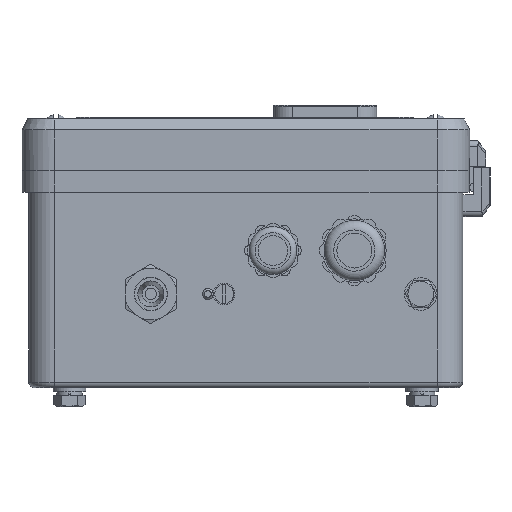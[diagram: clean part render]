
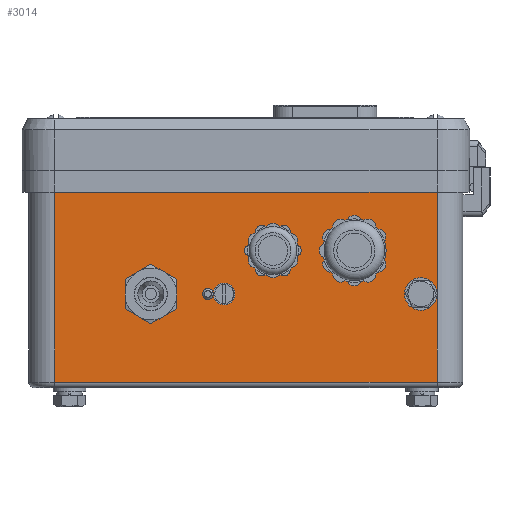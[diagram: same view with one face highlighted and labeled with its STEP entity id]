
A CAD part, left-side view. The second image highlights one B-rep face of the part: STEP entity #3014.
In plain terms, the highlighted planar face has unit normal (-1, 0, 0).
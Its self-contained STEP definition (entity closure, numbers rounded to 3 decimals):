
#3014=ADVANCED_FACE('',(#28628,#28630,#28632,#28634,#28636,#28638,#28640),#28642,
.T.);
#28628=FACE_BOUND('',#28629,.T.);
#28629=EDGE_LOOP('',(#56695,#56696,#56697,#56698));
#28630=FACE_BOUND('',#28631,.T.);
#28631=EDGE_LOOP('',(#56699));
#28632=FACE_BOUND('',#28633,.T.);
#28633=EDGE_LOOP('',(#56700));
#28634=FACE_BOUND('',#28635,.T.);
#28635=EDGE_LOOP('',(#56701));
#28636=FACE_BOUND('',#28637,.T.);
#28637=EDGE_LOOP('',(#56702));
#28638=FACE_BOUND('',#28639,.T.);
#28639=EDGE_LOOP('',(#56703));
#28640=FACE_BOUND('',#28641,.T.);
#28641=EDGE_LOOP('',(#56704));
#28642=PLANE('',#28643);
#28643=AXIS2_PLACEMENT_3D('',#28644,#28645,#28646);
#28644=CARTESIAN_POINT('',(-80.,-70.5,0.));
#28645=DIRECTION('',(-1.,0.,0.));
#28646=DIRECTION('',(0.,0.,-1.));
#56695=ORIENTED_EDGE('',*,*,#78029,.T.);
#56696=ORIENTED_EDGE('',*,*,#78030,.F.);
#56697=ORIENTED_EDGE('',*,*,#78031,.F.);
#56698=ORIENTED_EDGE('',*,*,#78032,.F.);
#56699=ORIENTED_EDGE('',*,*,#78033,.T.);
#56700=ORIENTED_EDGE('',*,*,#77940,.T.);
#56701=ORIENTED_EDGE('',*,*,#77942,.T.);
#56702=ORIENTED_EDGE('',*,*,#77944,.T.);
#56703=ORIENTED_EDGE('',*,*,#77946,.T.);
#56704=ORIENTED_EDGE('',*,*,#77948,.T.);
#77940=EDGE_CURVE('',#92463,#92463,#92464,.F.);
#77942=EDGE_CURVE('',#92467,#92467,#92468,.F.);
#77944=EDGE_CURVE('',#92471,#92471,#92472,.F.);
#77946=EDGE_CURVE('',#92475,#92475,#92476,.F.);
#77948=EDGE_CURVE('',#92479,#92479,#92480,.F.);
#78029=EDGE_CURVE('',#92617,#92618,#92619,.T.);
#78030=EDGE_CURVE('',#92620,#92618,#92621,.T.);
#78031=EDGE_CURVE('',#92622,#92620,#92623,.T.);
#78032=EDGE_CURVE('',#92617,#92622,#92624,.T.);
#78033=EDGE_CURVE('',#92625,#92625,#92626,.T.);
#92463=VERTEX_POINT('',#109501);
#92464=CIRCLE('',#109502,7.5);
#92467=VERTEX_POINT('',#109511);
#92468=CIRCLE('',#109512,6.5);
#92471=VERTEX_POINT('',#109521);
#92472=CIRCLE('',#109522,6.15);
#92475=VERTEX_POINT('',#109531);
#92476=CIRCLE('',#109532,2.);
#92479=VERTEX_POINT('',#109541);
#92480=CIRCLE('',#109542,2.);
#92617=VERTEX_POINT('',#109882);
#92618=VERTEX_POINT('',#109883);
#92619=LINE('',#109884,#109885);
#92620=VERTEX_POINT('',#109887);
#92621=LINE('',#109888,#109889);
#92622=VERTEX_POINT('',#109891);
#92623=LINE('',#109892,#109893);
#92624=LINE('',#109895,#109896);
#92625=VERTEX_POINT('',#109898);
#92626=CIRCLE('',#109899,3.);
#109501=CARTESIAN_POINT('',(-80.,-32.5,50.5));
#109502=AXIS2_PLACEMENT_3D('',#109503,#109504,#109505);
#109503=CARTESIAN_POINT('',(-80.,-40.,50.5));
#109504=DIRECTION('',(-1.,0.,0.));
#109505=DIRECTION('',(0.,1.,0.));
#109511=CARTESIAN_POINT('',(-80.,-10.,57.));
#109512=AXIS2_PLACEMENT_3D('',#109513,#109514,#109515);
#109513=CARTESIAN_POINT('',(-80.,-10.,50.5));
#109514=DIRECTION('',(-1.,0.,0.));
#109515=DIRECTION('',(0.,0.,1.));
#109521=CARTESIAN_POINT('',(-80.,35.,28.35));
#109522=AXIS2_PLACEMENT_3D('',#109523,#109524,#109525);
#109523=CARTESIAN_POINT('',(-80.,35.,34.5));
#109524=DIRECTION('',(-1.,0.,0.));
#109525=DIRECTION('',(0.,0.,-1.));
#109531=CARTESIAN_POINT('',(-80.,14.,32.5));
#109532=AXIS2_PLACEMENT_3D('',#109533,#109534,#109535);
#109533=CARTESIAN_POINT('',(-80.,14.,34.5));
#109534=DIRECTION('',(-1.,0.,0.));
#109535=DIRECTION('',(0.,0.,-1.));
#109541=CARTESIAN_POINT('',(-80.,8.,32.5));
#109542=AXIS2_PLACEMENT_3D('',#109543,#109544,#109545);
#109543=CARTESIAN_POINT('',(-80.,8.,34.5));
#109544=DIRECTION('',(-1.,0.,0.));
#109545=DIRECTION('',(0.,0.,-1.));
#109882=CARTESIAN_POINT('',(-80.,-70.5,72.));
#109883=CARTESIAN_POINT('',(-80.,70.5,72.));
#109884=CARTESIAN_POINT('',(-80.,-70.5,72.));
#109885=VECTOR('',#109886,1.);
#109886=DIRECTION('',(0.,1.,0.));
#109887=CARTESIAN_POINT('',(-80.,70.5,2.));
#109888=CARTESIAN_POINT('',(-80.,70.5,2.));
#109889=VECTOR('',#109890,1.);
#109890=DIRECTION('',(0.,0.,1.));
#109891=CARTESIAN_POINT('',(-80.,-70.5,2.));
#109892=CARTESIAN_POINT('',(-80.,-70.5,2.));
#109893=VECTOR('',#109894,1.);
#109894=DIRECTION('',(0.,1.,0.));
#109895=CARTESIAN_POINT('',(-80.,-70.5,72.));
#109896=VECTOR('',#109897,1.);
#109897=DIRECTION('',(0.,0.,-1.));
#109898=CARTESIAN_POINT('',(-80.,-64.5,37.5));
#109899=AXIS2_PLACEMENT_3D('',#109900,#109901,#109902);
#109900=CARTESIAN_POINT('',(-80.,-64.5,34.5));
#109901=DIRECTION('',(1.,0.,0.));
#109902=DIRECTION('',(0.,0.,-1.));
